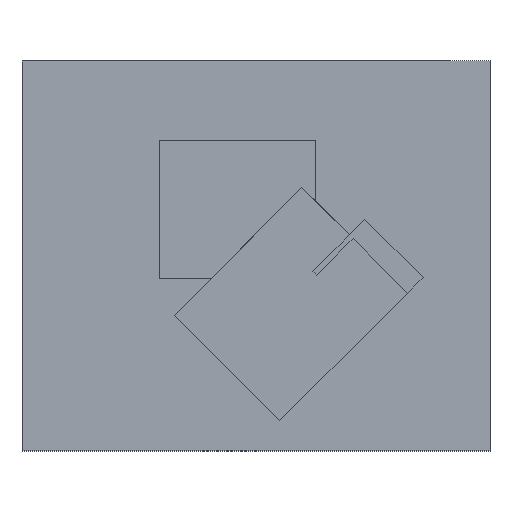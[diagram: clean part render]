
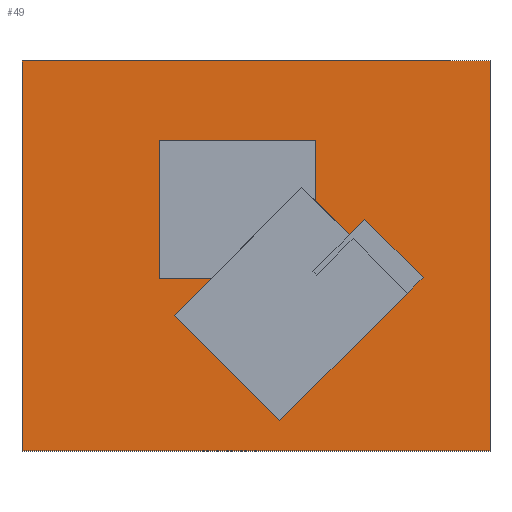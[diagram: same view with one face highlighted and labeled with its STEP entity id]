
A CAD part, top view. The second image highlights one B-rep face of the part: STEP entity #49.
In plain terms, the highlighted planar face has unit normal (0, 0, 1).
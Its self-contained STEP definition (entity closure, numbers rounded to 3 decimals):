
#11=FACE_BOUND('',#144,.T.);
#49=ADVANCED_FACE('',(#96,#11),#738,.T.);
#96=FACE_OUTER_BOUND('',#143,.T.);
#143=EDGE_LOOP('',(#291,#292,#293,#294,#295,#296,#297));
#144=EDGE_LOOP('',(#298,#299,#300,#301,#302,#303,#304,#305,#306,#307,#308));
#291=ORIENTED_EDGE('',*,*,#462,.T.);
#292=ORIENTED_EDGE('',*,*,#467,.T.);
#293=ORIENTED_EDGE('',*,*,#466,.T.);
#294=ORIENTED_EDGE('',*,*,#463,.T.);
#295=ORIENTED_EDGE('',*,*,#469,.T.);
#296=ORIENTED_EDGE('',*,*,#468,.T.);
#297=ORIENTED_EDGE('',*,*,#464,.T.);
#298=ORIENTED_EDGE('',*,*,#465,.T.);
#299=ORIENTED_EDGE('',*,*,#479,.T.);
#300=ORIENTED_EDGE('',*,*,#478,.T.);
#301=ORIENTED_EDGE('',*,*,#477,.T.);
#302=ORIENTED_EDGE('',*,*,#476,.T.);
#303=ORIENTED_EDGE('',*,*,#475,.T.);
#304=ORIENTED_EDGE('',*,*,#474,.T.);
#305=ORIENTED_EDGE('',*,*,#473,.T.);
#306=ORIENTED_EDGE('',*,*,#472,.T.);
#307=ORIENTED_EDGE('',*,*,#471,.T.);
#308=ORIENTED_EDGE('',*,*,#470,.T.);
#462=EDGE_CURVE('',#675,#680,#579,.T.);
#463=EDGE_CURVE('',#676,#682,#580,.T.);
#464=EDGE_CURVE('',#677,#675,#581,.T.);
#465=EDGE_CURVE('',#678,#692,#582,.T.);
#466=EDGE_CURVE('',#679,#676,#583,.T.);
#467=EDGE_CURVE('',#680,#679,#584,.T.);
#468=EDGE_CURVE('',#681,#677,#585,.T.);
#469=EDGE_CURVE('',#682,#681,#586,.T.);
#470=EDGE_CURVE('',#683,#678,#587,.T.);
#471=EDGE_CURVE('',#684,#683,#588,.T.);
#472=EDGE_CURVE('',#685,#684,#589,.T.);
#473=EDGE_CURVE('',#686,#685,#590,.T.);
#474=EDGE_CURVE('',#687,#686,#591,.T.);
#475=EDGE_CURVE('',#688,#687,#592,.T.);
#476=EDGE_CURVE('',#689,#688,#593,.T.);
#477=EDGE_CURVE('',#690,#689,#594,.T.);
#478=EDGE_CURVE('',#691,#690,#595,.T.);
#479=EDGE_CURVE('',#692,#691,#596,.T.);
#579=B_SPLINE_CURVE_WITH_KNOTS('',1,(#1197,#1198),.UNSPECIFIED.,.F.,.F.,
(2,2),(-3205.727,-2852.864),.UNSPECIFIED.);
#580=B_SPLINE_CURVE_WITH_KNOTS('',1,(#1199,#1200),.UNSPECIFIED.,.F.,.F.,
(2,2),(102.864,352.864),.UNSPECIFIED.);
#581=B_SPLINE_CURVE_WITH_KNOTS('',1,(#1201,#1202),.UNSPECIFIED.,.F.,.F.,
(2,2),(3427.995,5105.991),.UNSPECIFIED.);
#582=B_SPLINE_CURVE_WITH_KNOTS('',1,(#1203,#1204),.UNSPECIFIED.,.F.,.F.,
(2,2),(-810.,0.),.UNSPECIFIED.);
#583=B_SPLINE_CURVE_WITH_KNOTS('',1,(#1205,#1206,#1207),.UNSPECIFIED.,.F.,
 .F.,(2,1,2),(-352.864,0.,1677.995),.UNSPECIFIED.);
#584=B_SPLINE_CURVE_WITH_KNOTS('',1,(#1208,#1209),.UNSPECIFIED.,.F.,.F.,
(2,2),(-2852.864,-352.864),.UNSPECIFIED.);
#585=B_SPLINE_CURVE_WITH_KNOTS('',1,(#1210,#1211),.UNSPECIFIED.,.F.,.F.,
(2,2),(2852.864,3102.864),.UNSPECIFIED.);
#586=B_SPLINE_CURVE_WITH_KNOTS('',1,(#1212,#1213),.UNSPECIFIED.,.F.,.F.,
(2,2),(352.864,2852.864),.UNSPECIFIED.);
#587=B_SPLINE_CURVE_WITH_KNOTS('',1,(#1214,#1215),.UNSPECIFIED.,.F.,.F.,
(2,2),(3417.954,3517.954),.UNSPECIFIED.);
#588=B_SPLINE_CURVE_WITH_KNOTS('',1,(#1216,#1217),.UNSPECIFIED.,.F.,.F.,
(2,2),(3047.954,3417.954),.UNSPECIFIED.);
#589=B_SPLINE_CURVE_WITH_KNOTS('',1,(#1218,#1219),.UNSPECIFIED.,.F.,.F.,
(2,2),(2947.954,3047.954),.UNSPECIFIED.);
#590=B_SPLINE_CURVE_WITH_KNOTS('',1,(#1220,#1221),.UNSPECIFIED.,.F.,.F.,
(2,2),(2732.061,2947.954),.UNSPECIFIED.);
#591=B_SPLINE_CURVE_WITH_KNOTS('',1,(#1222,#1223),.UNSPECIFIED.,.F.,.F.,
(2,2),(2459.106,2732.061),.UNSPECIFIED.);
#592=B_SPLINE_CURVE_WITH_KNOTS('',1,(#1224,#1225),.UNSPECIFIED.,.F.,.F.,
(2,2),(1759.106,2459.106),.UNSPECIFIED.);
#593=B_SPLINE_CURVE_WITH_KNOTS('',1,(#1226,#1227),.UNSPECIFIED.,.F.,.F.,
(2,2),(1139.106,1759.106),.UNSPECIFIED.);
#594=B_SPLINE_CURVE_WITH_KNOTS('',1,(#1228,#1229),.UNSPECIFIED.,.F.,.F.,
(2,2),(905.097,1139.106),.UNSPECIFIED.);
#595=B_SPLINE_CURVE_WITH_KNOTS('',1,(#1230,#1231),.UNSPECIFIED.,.F.,.F.,
(2,2),(670.,905.097),.UNSPECIFIED.);
#596=B_SPLINE_CURVE_WITH_KNOTS('',1,(#1232,#1233),.UNSPECIFIED.,.F.,.F.,
(2,2),(0.,670.),.UNSPECIFIED.);
#675=VERTEX_POINT('',#1161);
#676=VERTEX_POINT('',#1162);
#677=VERTEX_POINT('',#1163);
#678=VERTEX_POINT('',#1164);
#679=VERTEX_POINT('',#1165);
#680=VERTEX_POINT('',#1166);
#681=VERTEX_POINT('',#1167);
#682=VERTEX_POINT('',#1168);
#683=VERTEX_POINT('',#1169);
#684=VERTEX_POINT('',#1170);
#685=VERTEX_POINT('',#1171);
#686=VERTEX_POINT('',#1172);
#687=VERTEX_POINT('',#1173);
#688=VERTEX_POINT('',#1174);
#689=VERTEX_POINT('',#1175);
#690=VERTEX_POINT('',#1176);
#691=VERTEX_POINT('',#1177);
#692=VERTEX_POINT('',#1178);
#738=PLANE('',#873);
#873=AXIS2_PLACEMENT_3D('',#1141,#923,$);
#923=DIRECTION('',(0.,0.,1.));
#1141=CARTESIAN_POINT('',(-30.,-25.,0.));
#1161=CARTESIAN_POINT('',(352.864,2500.,0.));
#1162=CARTESIAN_POINT('',(2750.,0.,0.));
#1163=CARTESIAN_POINT('',(2750.,2500.,0.));
#1164=CARTESIAN_POINT('',(2470.413,1011.081,0.));
#1165=CARTESIAN_POINT('',(0.,0.,0.));
#1166=CARTESIAN_POINT('',(0.,2500.,0.));
#1167=CARTESIAN_POINT('',(3000.,2500.,0.));
#1168=CARTESIAN_POINT('',(3000.,0.,0.));
#1169=CARTESIAN_POINT('',(2571.429,1112.096,0.));
#1170=CARTESIAN_POINT('',(2197.672,1485.852,0.));
#1171=CARTESIAN_POINT('',(2096.657,1384.837,0.));
#1172=CARTESIAN_POINT('',(1878.571,1602.923,0.));
#1173=CARTESIAN_POINT('',(1878.571,1992.857,0.));
#1174=CARTESIAN_POINT('',(878.571,1992.857,0.));
#1175=CARTESIAN_POINT('',(878.571,1107.143,0.));
#1176=CARTESIAN_POINT('',(1212.871,1107.143,0.));
#1177=CARTESIAN_POINT('',(975.388,869.659,0.));
#1178=CARTESIAN_POINT('',(1652.19,192.857,0.));
#1197=CARTESIAN_POINT('',(352.864,2500.,0.));
#1198=CARTESIAN_POINT('',(0.,2500.,0.));
#1199=CARTESIAN_POINT('',(2750.,0.,0.));
#1200=CARTESIAN_POINT('',(3000.,0.,0.));
#1201=CARTESIAN_POINT('',(2750.,2500.,0.));
#1202=CARTESIAN_POINT('',(352.864,2500.,0.));
#1203=CARTESIAN_POINT('',(2470.413,1011.081,0.));
#1204=CARTESIAN_POINT('',(1652.19,192.857,0.));
#1205=CARTESIAN_POINT('',(0.,0.,0.));
#1206=CARTESIAN_POINT('',(352.864,0.,0.));
#1207=CARTESIAN_POINT('',(2750.,0.,0.));
#1208=CARTESIAN_POINT('',(0.,2500.,0.));
#1209=CARTESIAN_POINT('',(0.,0.,0.));
#1210=CARTESIAN_POINT('',(3000.,2500.,0.));
#1211=CARTESIAN_POINT('',(2750.,2500.,0.));
#1212=CARTESIAN_POINT('',(3000.,0.,0.));
#1213=CARTESIAN_POINT('',(3000.,2500.,0.));
#1214=CARTESIAN_POINT('',(2571.429,1112.096,0.));
#1215=CARTESIAN_POINT('',(2470.413,1011.081,0.));
#1216=CARTESIAN_POINT('',(2197.672,1485.852,0.));
#1217=CARTESIAN_POINT('',(2571.429,1112.096,0.));
#1218=CARTESIAN_POINT('',(2096.657,1384.837,0.));
#1219=CARTESIAN_POINT('',(2197.672,1485.852,0.));
#1220=CARTESIAN_POINT('',(1878.571,1602.923,0.));
#1221=CARTESIAN_POINT('',(2096.657,1384.837,0.));
#1222=CARTESIAN_POINT('',(1878.571,1992.857,0.));
#1223=CARTESIAN_POINT('',(1878.571,1602.923,0.));
#1224=CARTESIAN_POINT('',(878.571,1992.857,0.));
#1225=CARTESIAN_POINT('',(1878.571,1992.857,0.));
#1226=CARTESIAN_POINT('',(878.571,1107.143,0.));
#1227=CARTESIAN_POINT('',(878.571,1992.857,0.));
#1228=CARTESIAN_POINT('',(1212.871,1107.143,0.));
#1229=CARTESIAN_POINT('',(878.571,1107.143,0.));
#1230=CARTESIAN_POINT('',(975.388,869.659,0.));
#1231=CARTESIAN_POINT('',(1212.871,1107.143,0.));
#1232=CARTESIAN_POINT('',(1652.19,192.857,0.));
#1233=CARTESIAN_POINT('',(975.388,869.659,0.));
